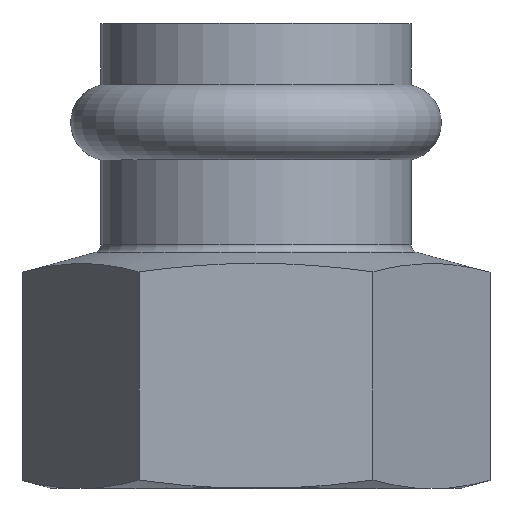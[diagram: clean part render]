
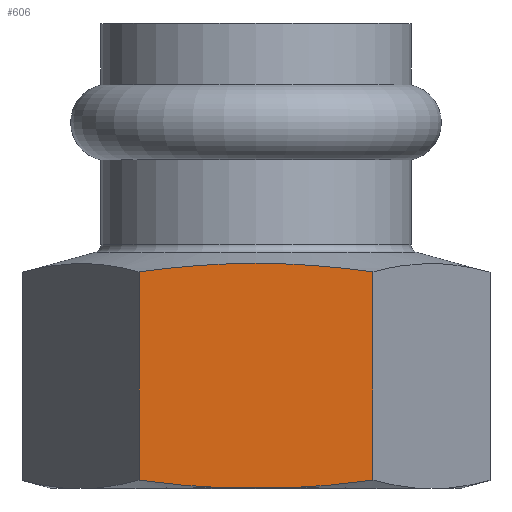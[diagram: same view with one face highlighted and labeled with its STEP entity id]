
A CAD part, top view. The second image highlights one B-rep face of the part: STEP entity #606.
In plain terms, the highlighted planar face has unit normal (0, 0, 1).
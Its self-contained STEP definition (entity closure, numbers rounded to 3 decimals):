
#15=(
BOUNDED_CURVE()
B_SPLINE_CURVE(2,(#994,#995,#996),.UNSPECIFIED.,.F.,.F.)
B_SPLINE_CURVE_WITH_KNOTS((3,3),(0.212,1.436),
 .UNSPECIFIED.)
CURVE()
GEOMETRIC_REPRESENTATION_ITEM()
RATIONAL_B_SPLINE_CURVE((1.03,1.11,1.11))
REPRESENTATION_ITEM('')
);
#16=(
BOUNDED_CURVE()
B_SPLINE_CURVE(2,(#999,#1000,#1001),.UNSPECIFIED.,.F.,.F.)
B_SPLINE_CURVE_WITH_KNOTS((3,3),(1.436,2.659),
 .UNSPECIFIED.)
CURVE()
GEOMETRIC_REPRESENTATION_ITEM()
RATIONAL_B_SPLINE_CURVE((1.11,1.11,1.03))
REPRESENTATION_ITEM('')
);
#28=(
BOUNDED_CURVE()
B_SPLINE_CURVE(2,(#1092,#1093,#1094),.UNSPECIFIED.,.F.,.F.)
B_SPLINE_CURVE_WITH_KNOTS((3,3),(0.,0.888),.UNSPECIFIED.)
CURVE()
GEOMETRIC_REPRESENTATION_ITEM()
RATIONAL_B_SPLINE_CURVE((1.,1.024,1.01))
REPRESENTATION_ITEM('')
);
#29=(
BOUNDED_CURVE()
B_SPLINE_CURVE(2,(#1096,#1097,#1098),.UNSPECIFIED.,.F.,.F.)
B_SPLINE_CURVE_WITH_KNOTS((3,3),(0.228,1.116),
 .UNSPECIFIED.)
CURVE()
GEOMETRIC_REPRESENTATION_ITEM()
RATIONAL_B_SPLINE_CURVE((1.01,1.024,1.))
REPRESENTATION_ITEM('')
);
#44=PLANE('',#702);
#70=LINE('',#1060,#96);
#72=LINE('',#1072,#98);
#75=LINE('',#1099,#101);
#96=VECTOR('',#855,10.);
#98=VECTOR('',#861,10.);
#101=VECTOR('',#870,10.);
#140=FACE_OUTER_BOUND('',#177,.T.);
#177=EDGE_LOOP('',(#517,#518,#519,#520,#521,#522,#523));
#267=VERTEX_POINT('',#992);
#268=VERTEX_POINT('',#993);
#269=VERTEX_POINT('',#998);
#289=VERTEX_POINT('',#1057);
#290=VERTEX_POINT('',#1059);
#292=VERTEX_POINT('',#1068);
#295=VERTEX_POINT('',#1095);
#340=EDGE_CURVE('',#267,#268,#15,.T.);
#342=EDGE_CURVE('',#268,#269,#16,.T.);
#366=EDGE_CURVE('',#289,#290,#70,.T.);
#371=EDGE_CURVE('',#292,#267,#72,.T.);
#378=EDGE_CURVE('',#290,#292,#28,.T.);
#379=EDGE_CURVE('',#295,#289,#29,.T.);
#380=EDGE_CURVE('',#295,#269,#75,.T.);
#517=ORIENTED_EDGE('',*,*,#340,.F.);
#518=ORIENTED_EDGE('',*,*,#371,.F.);
#519=ORIENTED_EDGE('',*,*,#378,.F.);
#520=ORIENTED_EDGE('',*,*,#366,.F.);
#521=ORIENTED_EDGE('',*,*,#379,.F.);
#522=ORIENTED_EDGE('',*,*,#380,.T.);
#523=ORIENTED_EDGE('',*,*,#342,.F.);
#606=ADVANCED_FACE('',(#140),#44,.T.);
#702=AXIS2_PLACEMENT_3D('',#1091,#868,#869);
#855=DIRECTION('',(-1.,0.,0.));
#861=DIRECTION('',(0.,1.,0.));
#868=DIRECTION('center_axis',(0.,0.,
1.));
#869=DIRECTION('ref_axis',(1.,0.,0.));
#870=DIRECTION('',(0.,1.,0.));
#992=CARTESIAN_POINT('',(-11.836,-25.136,20.5));
#993=CARTESIAN_POINT('',(0.,-24.286,20.5));
#994=CARTESIAN_POINT('Ctrl Pts',(-11.836,-25.136,20.5));
#995=CARTESIAN_POINT('Ctrl Pts',(-5.493,-24.286,20.5));
#996=CARTESIAN_POINT('Ctrl Pts',(0.,-24.286,
20.5));
#998=CARTESIAN_POINT('',(11.836,-25.136,20.5));
#999=CARTESIAN_POINT('Ctrl Pts',(0.,-24.286,
20.5));
#1000=CARTESIAN_POINT('Ctrl Pts',(5.493,-24.286,20.5));
#1001=CARTESIAN_POINT('Ctrl Pts',(11.836,-25.136,20.5));
#1057=CARTESIAN_POINT('',(3.211,-47.,20.5));
#1059=CARTESIAN_POINT('',(-3.211,-47.,20.5));
#1060=CARTESIAN_POINT('',(5.918,-47.,20.5));
#1068=CARTESIAN_POINT('',(-11.836,-46.217,20.5));
#1072=CARTESIAN_POINT('',(-11.836,-47.,20.5));
#1091=CARTESIAN_POINT('Origin',(11.836,-47.,20.5));
#1092=CARTESIAN_POINT('Ctrl Pts',(-3.211,-47.,20.5));
#1093=CARTESIAN_POINT('Ctrl Pts',(-7.24,-46.833,20.5));
#1094=CARTESIAN_POINT('Ctrl Pts',(-11.836,-46.217,20.5));
#1095=CARTESIAN_POINT('',(11.836,-46.217,20.5));
#1096=CARTESIAN_POINT('Ctrl Pts',(11.836,-46.217,20.5));
#1097=CARTESIAN_POINT('Ctrl Pts',(7.24,-46.833,20.5));
#1098=CARTESIAN_POINT('Ctrl Pts',(3.211,-47.,20.5));
#1099=CARTESIAN_POINT('',(11.836,-47.,20.5));
